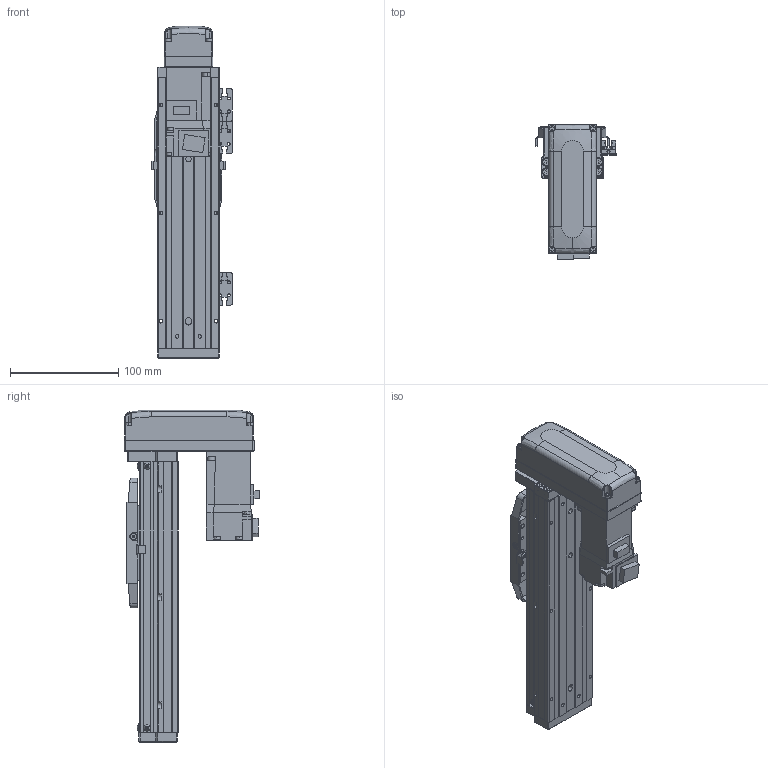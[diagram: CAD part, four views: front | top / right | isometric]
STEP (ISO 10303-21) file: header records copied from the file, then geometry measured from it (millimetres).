
FILE_DESCRIPTION (( 'STEP AP203' ), '1' );
FILE_NAME ('CTHA50-100-BM-M10-C4L.step', '2022-03-19T06:02:29', ( '微软用户' ), ( '微软中国' ), 'SwSTEP 2.0', 'SolidWorks 2020', '' );
FILE_SCHEMA (( 'CONFIG_CONTROL_DESIGN' ));
Length unit declared in the file: millimetre
Products named in the file (20): CTHA50-015-2_CTHA60-015-2; GB¨uT 70.2-M3¡Á6_M3¡Á6; CTHA60-021; CTHA60-033; EE_SX911P_R; HG-KR13（三菱）; GBT 70.1-M3×15; GBT77-2000 M3×3; CTHA50-002; CTHA50-100-BM-M10-C4L; GBT 70.1-M3℅6; CTHA50-030; KTHA50-001_250; CTHA60-017; CTHA50-031; KTHA50-004; GBT 70.1-M4×12; GBT 70.3-M3℅6; KTHA50-005; CTHA60-016
Assembly tree (60 placements, depth 2):
  CTHA50-100-BM-M10-C4L
    KTHA50-001_250
    KTHA50-004
    KTHA50-005
    GB¨uT 70.2-M3¡Á6_M3¡Á6  x10
    EE_SX911P_R  x3
    GBT77-2000 M3×3  x6
    GBT 70.1-M3℅6  x6
    CTHA60-017  x3
    GBT 70.1-M4×12  x10
    CTHA60-016  x2
    CTHA60-021  x2
    HG-KR13（三菱）
    CTHA50-002
    CTHA50-030  x2
    CTHA50-031
    GBT 70.3-M3℅6  x4
    CTHA50-015-2_CTHA60-015-2
    CTHA60-033
    GBT 70.1-M3×15  x4
Bounding box: 74.12 x 125.3 x 307 mm (x, y, z)
Volume: 800220 mm3; surface area: 211829.3 mm2
Topology: 62 solids, 62 shells, 2453 faces, 5799 edges, 3546 vertices
Faces by surface type: plane 1386, cylinder 564, cone 345, torus 108, bspline 26, sphere 24
Entity records: 40747 total; most frequent: CARTESIAN_POINT 7547, DIRECTION 6315, ORIENTED_EDGE 6106, EDGE_CURVE 3053, VECTOR 2127, LINE 2127, AXIS2_PLACEMENT_3D 2094, VERTEX_POINT 1920
